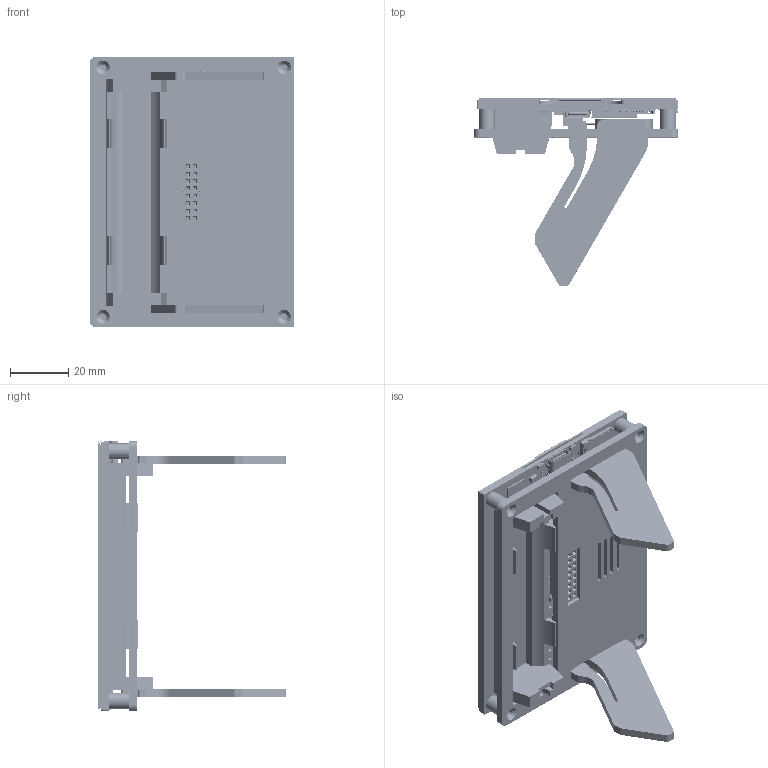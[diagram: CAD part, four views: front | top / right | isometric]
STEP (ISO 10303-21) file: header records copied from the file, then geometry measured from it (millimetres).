
FILE_DESCRIPTION((''),'2;1');
FILE_NAME('ESP32-S3-RLCD-4_2_ASM','2025-12-08T15:40:35',('xiaojisheng'),(''),'CREO PARAMETRIC BY PTC INC, 2021063','CREO PARAMETRIC BY PTC INC, 2021063','');
FILE_SCHEMA(('CONFIG_CONTROL_DESIGN','SHAPE_APPEARANCE_LAYERS_GROUPS'));
Products named in the file (536): 042MN-ZF21-H06-B-RLCD; 042MN-ZF21-H06-B_ASM; SMTSO-M2_5-7ET; BOARD; HP1_25MM-2P-SMT-VERTICAL; H2_ASM; PIN_HEADER_A-SL254-DG-G08MP1; P1_ASM; CYLINDER-38021; 1652500320_ASM; EXTRUDED-38167; 1562095568_ASM; EXTRUDED-38539; 1562095440_ASM; EXTRUDED-38911; 1562095312_ASM; CYLINDER-39288; 1652500200_ASM; EXTRUDED-39439; 1556959872_ASM; EXTRUDED-39811; 1556959744_ASM; J7_ASM; SOT23-5AND6__100; SOT23-6-7933_AF0; SOT23-6-13550_AF0_ASM_ASM; SOT23-6_ASM; U11_ASM; SOT-23; Q3_ASM; SWITCH-TS24CA; KEY4_ASM; EXTRUDED-144930; _1996198832_ASM; Y1_ASM; EXTRUDED-145325; _2055690144_ASM; U12_ASM; EXTRUDED-145720; 1562103760_ASM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
Assembly tree (780 placements, depth 12):
  ESP32-S3-RLCD-4_2_ASM
    042MN-ZF21-H06-B_ASM
      042MN-ZF21-H06-B-RLCD
    ESP32-S3-RLCD-4_2-PCBA_ASM
      SMTSO-M2_5-7ET  x4
      ESP32-S3-RLCD-4_2-V0_ASM
        PCB_ASM
          BOARD
          H2_ASM
            HP1_25MM-2P-SMT-VERTICAL
          P1_ASM
            PIN_HEADER_A-SL254-DG-G08MP1  x2
          J7_ASM
            1652500320_ASM  x2
              CYLINDER-38021
            1562095568_ASM
              EXTRUDED-38167
            1562095440_ASM
              EXTRUDED-38539
            1562095312_ASM
              EXTRUDED-38911
            1652500200_ASM  x2
              CYLINDER-39288
            1556959872_ASM
              EXTRUDED-39439
            1556959744_ASM
              EXTRUDED-39811
          U11_ASM
            SOT23-6_ASM
              SOT23-6-13550_AF0_ASM_ASM
                SOT23-5AND6__100  x6
                SOT23-6-7933_AF0
          Q3_ASM
            SOT-23
          KEY4_ASM
            SWITCH-TS24CA
          Y1_ASM
            _1996198832_ASM
              EXTRUDED-144930
          U12_ASM
            _2055690144_ASM
              EXTRUDED-145325
          U10_ASM
            1562103760_ASM
              EXTRUDED-145720
          U7_ASM
            1562097744_ASM
              EXTRUDED-146115
          U6_ASM
            1125983808_ASM
              EXTRUDED-146510
          U1_ASM
            ESP32-S3-WROOM-1_ASM
              PCB_ESP32-S3-WROOM-1_V1_2__PCB__ASM
                DESIGNROOTMODEL_PCB_ESP32-S3-WR_ASM
                  SUBMODEL-C0201_PART_DESI-147794_ASM
                  SUBMODEL-L0201_PART_DESI-150524_ASM
                  SUBMODEL-C0402_PART_DESIGNROOTM_ASM
                  SUBMODEL-R0201_PART_DESI-156030_ASM
                  SUBMODEL-R0201_PART_DESI-158333_ASM
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Bounding box: 70.11 x 64.43 x 92.59 mm (x, y, z)
Volume: 51326 mm3; surface area: 72796.5 mm2
Topology: 875 solids, 899 shells, 39969 faces, 103892 edges, 66723 vertices
Faces by surface type: plane 24747, extrusion 8006, cylinder 5578, sphere 1253, torus 215, cone 112, bspline 58
Entity records: 511830 total; most frequent: CARTESIAN_POINT 107451, ORIENTED_EDGE 65166, DIRECTION 62306, EDGE_CURVE 32599, VECTOR 26562, LINE 25752, PRESENTATION_STYLE_ASSIGNMENT 22253, VERTEX_POINT 21346
